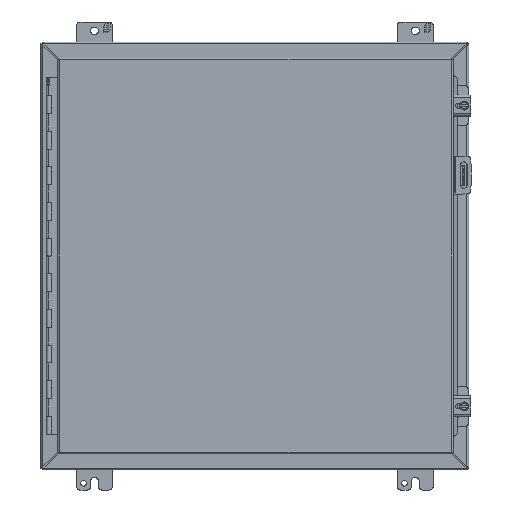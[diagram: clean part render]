
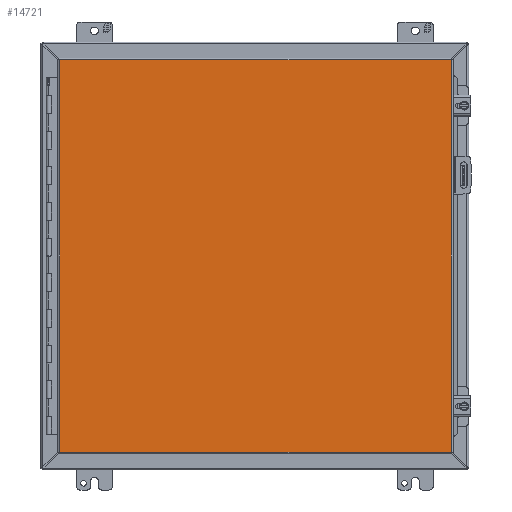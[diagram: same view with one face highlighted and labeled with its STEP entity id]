
A CAD part, front view. The second image highlights one B-rep face of the part: STEP entity #14721.
In plain terms, the highlighted planar face has unit normal (0, -1, 0).
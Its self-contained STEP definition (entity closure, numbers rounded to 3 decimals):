
#752=LINE('',#22414,#2131);
#753=LINE('',#22417,#2132);
#754=LINE('',#22419,#2133);
#755=LINE('',#22421,#2134);
#2131=VECTOR('',#18303,1000.);
#2132=VECTOR('',#18304,1000.);
#2133=VECTOR('',#18305,1000.);
#2134=VECTOR('',#18306,1000.);
#5730=ORIENTED_EDGE('',*,*,#9024,.T.);
#5731=ORIENTED_EDGE('',*,*,#9025,.T.);
#5732=ORIENTED_EDGE('',*,*,#9026,.T.);
#5733=ORIENTED_EDGE('',*,*,#9027,.T.);
#9024=EDGE_CURVE('',#10810,#10811,#752,.T.);
#9025=EDGE_CURVE('',#10811,#10812,#753,.T.);
#9026=EDGE_CURVE('',#10812,#10813,#754,.T.);
#9027=EDGE_CURVE('',#10813,#10810,#755,.T.);
#10810=VERTEX_POINT('',#22415);
#10811=VERTEX_POINT('',#22416);
#10812=VERTEX_POINT('',#22418);
#10813=VERTEX_POINT('',#22420);
#12408=EDGE_LOOP('',(#5730,#5731,#5732,#5733));
#13325=FACE_BOUND('',#12408,.T.);
#14076=PLANE('',#15881);
#14721=ADVANCED_FACE('',(#13325),#14076,.T.);
#15881=AXIS2_PLACEMENT_3D('',#22413,#18301,#18302);
#18301=DIRECTION('',(0.,-1.,0.));
#18302=DIRECTION('',(0.,0.,-1.));
#18303=DIRECTION('',(0.,0.,-1.));
#18304=DIRECTION('',(1.,0.,0.));
#18305=DIRECTION('',(0.,0.,1.));
#18306=DIRECTION('',(-1.,0.,0.));
#22413=CARTESIAN_POINT('',(-279.044,0.,-279.26));
#22414=CARTESIAN_POINT('',(-279.044,0.,279.26));
#22415=CARTESIAN_POINT('',(-279.044,0.,279.26));
#22416=CARTESIAN_POINT('',(-279.044,0.,-279.26));
#22417=CARTESIAN_POINT('',(-279.044,0.,-279.26));
#22418=CARTESIAN_POINT('',(279.044,0.,-279.26));
#22419=CARTESIAN_POINT('',(279.044,0.,-279.26));
#22420=CARTESIAN_POINT('',(279.044,0.,279.26));
#22421=CARTESIAN_POINT('',(279.044,0.,279.26));
